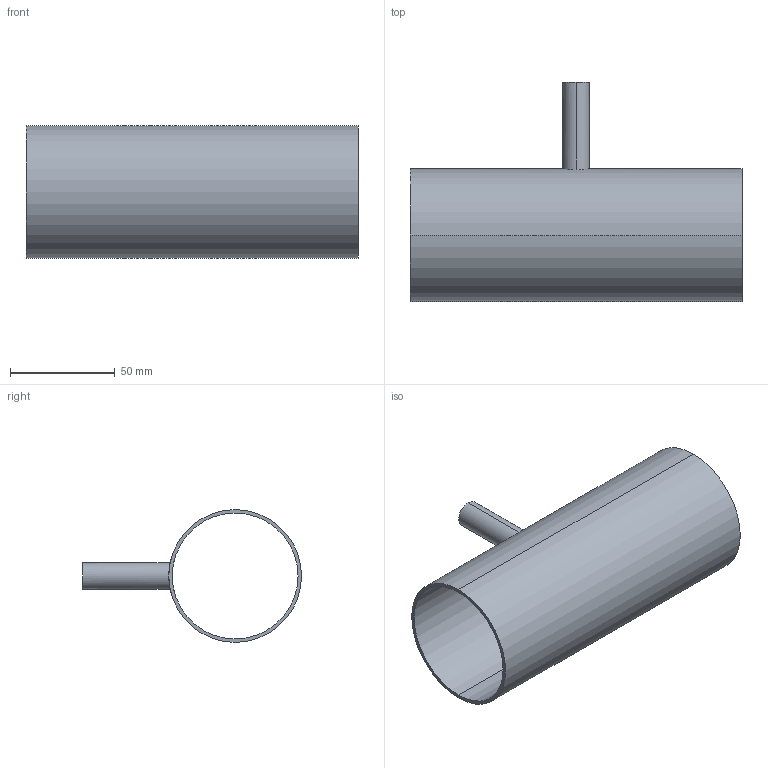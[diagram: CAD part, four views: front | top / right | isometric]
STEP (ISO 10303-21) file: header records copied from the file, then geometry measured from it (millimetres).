
FILE_DESCRIPTION (( 'STEP AP214' ), '1' );
FILE_NAME ('TE7RWWW6L2.5x.5-...STEP', '2016-05-24T04:16:02', ( 'eran' ), ( '' ), 'SwSTEP 2.0', 'SolidWorks 2016', '' );
FILE_SCHEMA (( 'AUTOMOTIVE_DESIGN' ));
Length unit declared in the file: millimetre
Products named in the file (1): TE7RWWW6L2.5x.5-..
Bounding box: 158.8 x 104.75 x 63.5 mm (x, y, z)
Volume: 53174.5 mm3; surface area: 65144.5 mm2
Topology: 1 solids, 1 shells, 11 faces, 24 edges, 16 vertices
Faces by surface type: cylinder 8, plane 3
Entity records: 492 total; most frequent: CARTESIAN_POINT 200, DIRECTION 56, ORIENTED_EDGE 48, AXIS2_PLACEMENT_3D 24, EDGE_CURVE 24, VERTEX_POINT 16, EDGE_LOOP 16, CIRCLE 12
